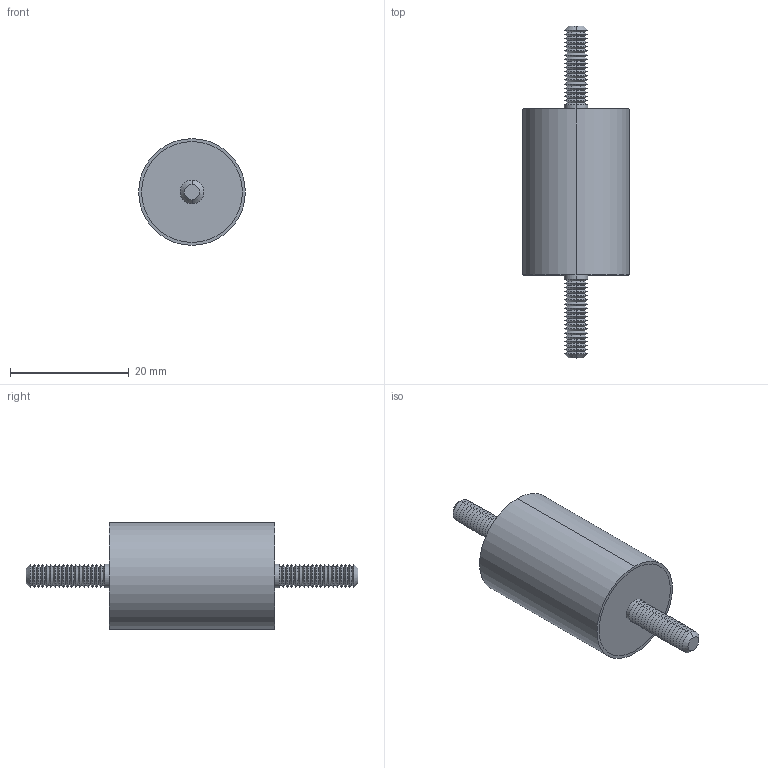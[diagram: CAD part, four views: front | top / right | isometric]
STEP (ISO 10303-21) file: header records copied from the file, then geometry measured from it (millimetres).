
FILE_DESCRIPTION (( 'STEP AP203' ), '1' );
FILE_NAME ('61040.W0161.step', '2019-09-24T22:25:23', ( '' ), ( '' ), 'SwSTEP 2.0', 'SolidWorks 2017', '' );
FILE_SCHEMA (( 'CONFIG_CONTROL_DESIGN' ));
Length unit declared in the file: millimetre
Products named in the file (4): Part1_61040.W0161; Part3_61040.W0161; Part2_61040.W0161; 61040.W0161
Assembly tree (3 placements, depth 2):
  61040.W0161
    Part1_61040.W0161
    Part2_61040.W0161
    Part3_61040.W0161
Bounding box: 18 x 56 x 18 mm (x, y, z)
Volume: 7385.3 mm3; surface area: 3774.8 mm2
Topology: 3 solids, 3 shells, 172 faces, 338 edges, 176 vertices
Faces by surface type: cone 148, cylinder 14, plane 10
Entity records: 4708 total; most frequent: DIRECTION 870, CARTESIAN_POINT 692, ORIENTED_EDGE 676, AXIS2_PLACEMENT_3D 354, EDGE_CURVE 338, EDGE_LOOP 176, CIRCLE 176, VERTEX_POINT 176
